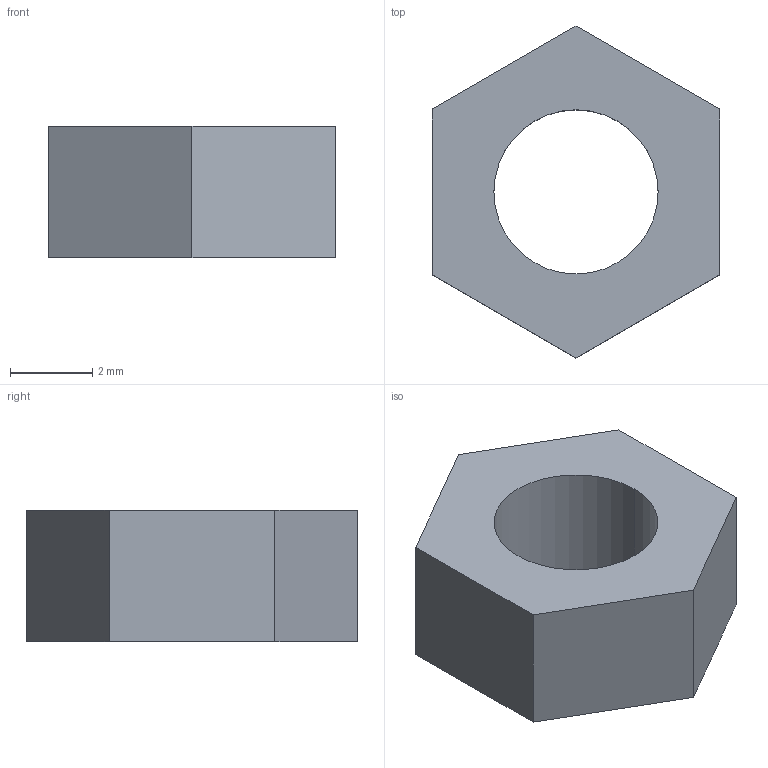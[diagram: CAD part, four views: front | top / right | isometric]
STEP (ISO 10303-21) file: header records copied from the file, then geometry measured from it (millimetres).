
FILE_DESCRIPTION (( 'STEP AP203' ), '1' );
FILE_NAME ('REF_M4_plain_nut.step', '2026-10-22T14:08:33', ( '' ), ( '' ), 'SwSTEP 2.0', 'SolidWorks 2025', '' );
FILE_SCHEMA (( 'CONFIG_CONTROL_DESIGN' ));
Length unit declared in the file: millimetre
Products named in the file (1): REF_M4_plain_nut
Bounding box: 7 x 8.08 x 3.2 mm (x, y, z)
Volume: 95.6 mm3; surface area: 177.5 mm2
Topology: 1 solids, 1 shells, 10 faces, 24 edges, 16 vertices
Faces by surface type: plane 8, cylinder 2
Entity records: 373 total; most frequent: CARTESIAN_POINT 51, DIRECTION 50, ORIENTED_EDGE 48, EDGE_CURVE 24, VECTOR 20, LINE 20, VERTEX_POINT 16, AXIS2_PLACEMENT_3D 15
